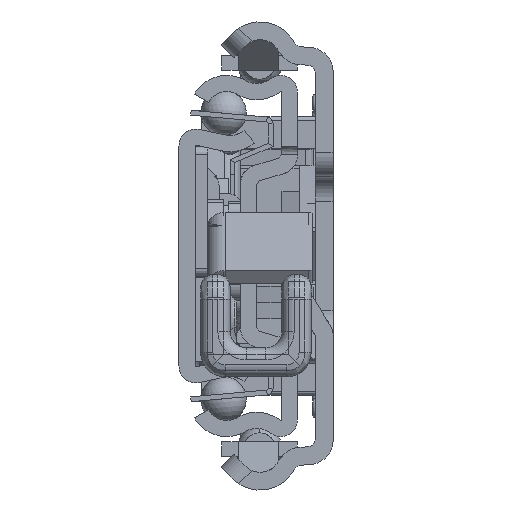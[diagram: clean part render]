
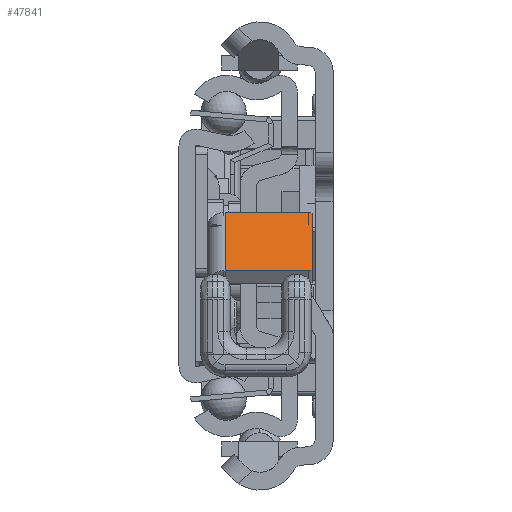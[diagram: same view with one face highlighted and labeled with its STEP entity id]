
A CAD part, left-side view. The second image highlights one B-rep face of the part: STEP entity #47841.
In plain terms, the highlighted planar face has unit normal (-0.597, 0, 0.802) as drawn and (-0.597, -0.802, 0) by its records, which use the part's own axes.
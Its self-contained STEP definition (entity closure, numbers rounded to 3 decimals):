
#47229=DIRECTION('',(0.802,-0.597,0.));
#47230=VECTOR('',#47229,12.);
#47231=CARTESIAN_POINT('',(31.957,-10.314,-0.2));
#47232=LINE('',#47231,#47230);
#47257=DIRECTION('',(0.,0.,1.));
#47258=VECTOR('',#47257,10.3);
#47259=CARTESIAN_POINT('',(41.586,-17.476,-10.5));
#47260=LINE('',#47259,#47258);
#47261=CARTESIAN_POINT('',(41.184,-17.178,-10.5));
#47262=DIRECTION('',(-0.597,-0.802,0.));
#47263=DIRECTION('',(0.,0.,-1.));
#47264=AXIS2_PLACEMENT_3D('',#47261,#47262,#47263);
#47266=DIRECTION('',(0.802,-0.597,0.));
#47267=VECTOR('',#47266,11.);
#47268=CARTESIAN_POINT('',(32.358,-10.613,-11.));
#47269=LINE('',#47268,#47267);
#47270=CARTESIAN_POINT('',(32.358,-10.613,-10.5));
#47271=DIRECTION('',(-0.597,-0.802,0.));
#47272=DIRECTION('',(-0.802,0.597,0.));
#47273=AXIS2_PLACEMENT_3D('',#47270,#47271,#47272);
#47275=DIRECTION('',(0.,0.,-1.));
#47276=VECTOR('',#47275,10.3);
#47277=CARTESIAN_POINT('',(31.957,-10.314,-0.2));
#47278=LINE('',#47277,#47276);
#47495=CARTESIAN_POINT('',(31.957,-10.314,-0.2));
#47496=CARTESIAN_POINT('',(41.586,-17.476,-0.2));
#47497=VERTEX_POINT('',#47495);
#47498=VERTEX_POINT('',#47496);
#47527=CARTESIAN_POINT('',(41.586,-17.476,-10.5));
#47528=VERTEX_POINT('',#47527);
#47529=CARTESIAN_POINT('',(32.358,-10.613,-11.));
#47530=CARTESIAN_POINT('',(41.184,-17.178,-11.));
#47531=VERTEX_POINT('',#47529);
#47532=VERTEX_POINT('',#47530);
#47533=CARTESIAN_POINT('',(31.957,-10.314,-10.5));
#47534=VERTEX_POINT('',#47533);
#47823=CARTESIAN_POINT('',(34.726,-12.374,2.));
#47824=DIRECTION('',(0.597,0.802,0.));
#47825=DIRECTION('',(0.802,-0.597,0.));
#47826=AXIS2_PLACEMENT_3D('',#47823,#47824,#47825);
#47827=PLANE('',#47826);
#47829=ORIENTED_EDGE('',*,*,#47828,.F.);
#47831=ORIENTED_EDGE('',*,*,#47830,.F.);
#47833=ORIENTED_EDGE('',*,*,#47832,.F.);
#47835=ORIENTED_EDGE('',*,*,#47834,.F.);
#47837=ORIENTED_EDGE('',*,*,#47836,.F.);
#47838=ORIENTED_EDGE('',*,*,#47810,.T.);
#47839=EDGE_LOOP('',(#47829,#47831,#47833,#47835,#47837,#47838));
#47840=FACE_OUTER_BOUND('',#47839,.F.);
#47265=CIRCLE('',#47264,0.5);
#47274=CIRCLE('',#47273,0.5);
#47810=EDGE_CURVE('',#47497,#47498,#47232,.T.);
#47828=EDGE_CURVE('',#47528,#47498,#47260,.T.);
#47830=EDGE_CURVE('',#47532,#47528,#47265,.T.);
#47832=EDGE_CURVE('',#47531,#47532,#47269,.T.);
#47834=EDGE_CURVE('',#47534,#47531,#47274,.T.);
#47836=EDGE_CURVE('',#47497,#47534,#47278,.T.);
#47841=ADVANCED_FACE('',(#47840),#47827,.F.);
